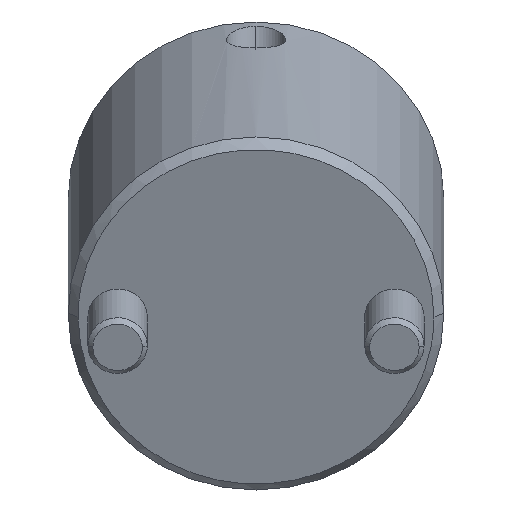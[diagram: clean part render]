
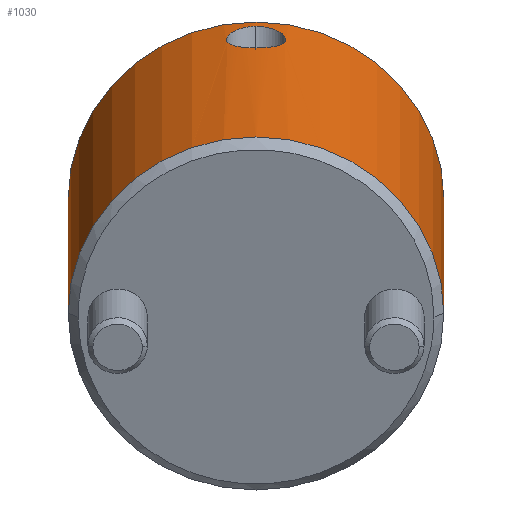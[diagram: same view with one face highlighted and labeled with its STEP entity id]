
A CAD part, front view. The second image highlights one B-rep face of the part: STEP entity #1030.
In plain terms, the highlighted cylindrical face has radius 19 mm (diameter 38 mm), a partial arc.
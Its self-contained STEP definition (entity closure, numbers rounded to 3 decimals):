
#763=CARTESIAN_POINT('Vertex',(0.,19.,1.)) ;
#766=CARTESIAN_POINT('Axis2P3D Location',(0.,0.,1.)) ;
#770=CARTESIAN_POINT('Vertex',(0.,-19.,1.)) ;
#922=CARTESIAN_POINT('Axis2P3D Location',(0.,0.,-1.8)) ;
#927=CARTESIAN_POINT('Line Origine',(0.,19.,-1.8)) ;
#931=CARTESIAN_POINT('Vertex',(0.,19.,35.)) ;
#934=CARTESIAN_POINT('Axis2P3D Location',(0.,0.,35.)) ;
#938=CARTESIAN_POINT('Vertex',(0.,-19.,35.)) ;
#941=CARTESIAN_POINT('Line Origine',(0.,-19.,-1.8)) ;
#953=CARTESIAN_POINT('Control Point',(19.,0.,33.73)) ;
#954=CARTESIAN_POINT('Control Point',(19.,0.079,33.73)) ;
#955=CARTESIAN_POINT('Control Point',(19.,0.158,33.727)) ;
#956=CARTESIAN_POINT('Control Point',(18.999,0.237,33.721)) ;
#957=CARTESIAN_POINT('Control Point',(18.995,0.474,33.695)) ;
#958=CARTESIAN_POINT('Control Point',(18.988,0.71,33.641)) ;
#959=CARTESIAN_POINT('Control Point',(18.981,0.869,33.592)) ;
#960=CARTESIAN_POINT('Control Point',(18.965,1.177,33.474)) ;
#961=CARTESIAN_POINT('Control Point',(18.944,1.464,33.312)) ;
#962=CARTESIAN_POINT('Control Point',(18.933,1.604,33.218)) ;
#963=CARTESIAN_POINT('Control Point',(18.908,1.875,33.011)) ;
#964=CARTESIAN_POINT('Control Point',(18.882,2.118,32.766)) ;
#965=CARTESIAN_POINT('Control Point',(18.869,2.233,32.633)) ;
#966=CARTESIAN_POINT('Control Point',(18.836,2.5,32.278)) ;
#967=CARTESIAN_POINT('Control Point',(18.806,2.71,31.875)) ;
#968=CARTESIAN_POINT('Control Point',(18.791,2.811,31.624)) ;
#969=CARTESIAN_POINT('Control Point',(18.771,2.939,31.185)) ;
#970=CARTESIAN_POINT('Control Point',(18.762,2.995,30.734)) ;
#971=CARTESIAN_POINT('Control Point',(18.761,3.006,30.555)) ;
#972=CARTESIAN_POINT('Control Point',(18.761,3.002,30.198)) ;
#973=CARTESIAN_POINT('Control Point',(18.769,2.952,29.847)) ;
#974=CARTESIAN_POINT('Control Point',(18.775,2.916,29.674)) ;
#975=CARTESIAN_POINT('Control Point',(18.79,2.822,29.339)) ;
#976=CARTESIAN_POINT('Control Point',(18.81,2.683,29.023)) ;
#977=CARTESIAN_POINT('Control Point',(18.821,2.603,28.87)) ;
#978=CARTESIAN_POINT('Control Point',(18.846,2.423,28.578)) ;
#979=CARTESIAN_POINT('Control Point',(18.872,2.207,28.317)) ;
#980=CARTESIAN_POINT('Control Point',(18.885,2.09,28.195)) ;
#981=CARTESIAN_POINT('Control Point',(18.912,1.841,27.969)) ;
#982=CARTESIAN_POINT('Control Point',(18.936,1.563,27.78)) ;
#983=CARTESIAN_POINT('Control Point',(18.948,1.418,27.696)) ;
#984=CARTESIAN_POINT('Control Point',(18.972,1.063,27.523)) ;
#985=CARTESIAN_POINT('Control Point',(18.99,0.68,27.41)) ;
#986=CARTESIAN_POINT('Control Point',(18.997,0.455,27.366)) ;
#987=CARTESIAN_POINT('Control Point',(19.,0.228,27.344)) ;
#988=CARTESIAN_POINT('Control Point',(19.,0.,27.344)) ;
#989=CARTESIAN_POINT('Vertex',(19.,0.,33.73)) ;
#991=CARTESIAN_POINT('Vertex',(19.,0.,27.344)) ;
#995=CARTESIAN_POINT('Control Point',(19.,0.,27.344)) ;
#996=CARTESIAN_POINT('Control Point',(19.,-0.084,27.344)) ;
#997=CARTESIAN_POINT('Control Point',(19.,-0.167,27.347)) ;
#998=CARTESIAN_POINT('Control Point',(18.999,-0.25,27.353)) ;
#999=CARTESIAN_POINT('Control Point',(18.995,-0.499,27.379)) ;
#1000=CARTESIAN_POINT('Control Point',(18.986,-0.745,27.432)) ;
#1001=CARTESIAN_POINT('Control Point',(18.979,-0.909,27.479)) ;
#1002=CARTESIAN_POINT('Control Point',(18.953,-1.384,27.653)) ;
#1003=CARTESIAN_POINT('Control Point',(18.917,-1.81,27.924)) ;
#1004=CARTESIAN_POINT('Control Point',(18.889,-2.071,28.145)) ;
#1005=CARTESIAN_POINT('Control Point',(18.841,-2.465,28.594)) ;
#1006=CARTESIAN_POINT('Control Point',(18.801,-2.743,29.131)) ;
#1007=CARTESIAN_POINT('Control Point',(18.787,-2.837,29.372)) ;
#1008=CARTESIAN_POINT('Control Point',(18.769,-2.954,29.795)) ;
#1009=CARTESIAN_POINT('Control Point',(18.762,-3.,30.236)) ;
#1010=CARTESIAN_POINT('Control Point',(18.761,-3.007,30.413)) ;
#1011=CARTESIAN_POINT('Control Point',(18.762,-2.997,30.773)) ;
#1012=CARTESIAN_POINT('Control Point',(18.771,-2.939,31.131)) ;
#1013=CARTESIAN_POINT('Control Point',(18.778,-2.898,31.31)) ;
#1014=CARTESIAN_POINT('Control Point',(18.802,-2.743,31.832)) ;
#1015=CARTESIAN_POINT('Control Point',(18.838,-2.488,32.314)) ;
#1016=CARTESIAN_POINT('Control Point',(18.865,-2.279,32.609)) ;
#1017=CARTESIAN_POINT('Control Point',(18.906,-1.921,32.992)) ;
#1018=CARTESIAN_POINT('Control Point',(18.941,-1.503,33.286)) ;
#1019=CARTESIAN_POINT('Control Point',(18.952,-1.362,33.372)) ;
#1020=CARTESIAN_POINT('Control Point',(18.975,-1.019,33.548)) ;
#1021=CARTESIAN_POINT('Control Point',(18.991,-0.648,33.663)) ;
#1022=CARTESIAN_POINT('Control Point',(18.997,-0.432,33.708)) ;
#1023=CARTESIAN_POINT('Control Point',(19.,-0.217,33.73)) ;
#1024=CARTESIAN_POINT('Control Point',(19.,0.,33.73)) ;
#767=DIRECTION('Axis2P3D Direction',(0.,0.,1.)) ;
#923=DIRECTION('Axis2P3D Direction',(0.,-0.,1.)) ;
#924=DIRECTION('Axis2P3D XDirection',(0.,-1.,0.)) ;
#928=DIRECTION('Vector Direction',(0.,0.,1.)) ;
#935=DIRECTION('Axis2P3D Direction',(0.,-0.,1.)) ;
#942=DIRECTION('Vector Direction',(0.,0.,1.)) ;
#768=AXIS2_PLACEMENT_3D('Circle Axis2P3D',#766,#767,$) ;
#925=AXIS2_PLACEMENT_3D('Cylinder Axis2P3D',#922,#923,#924) ;
#936=AXIS2_PLACEMENT_3D('Circle Axis2P3D',#934,#935,$) ;
#947=ORIENTED_EDGE('',*,*,#933,.F.) ;
#948=ORIENTED_EDGE('',*,*,#940,.T.) ;
#949=ORIENTED_EDGE('',*,*,#945,.T.) ;
#950=ORIENTED_EDGE('',*,*,#772,.F.) ;
#1027=ORIENTED_EDGE('',*,*,#993,.T.) ;
#1028=ORIENTED_EDGE('',*,*,#1025,.T.) ;
#1029=FACE_BOUND('',#1026,.T.) ;
#929=VECTOR('Line Direction',#928,1.) ;
#943=VECTOR('Line Direction',#942,1.) ;
#1030=ADVANCED_FACE('MANIFOLD_SOLID_BREP #1116',(#951,#1029),#926,.T.) ;
#952=B_SPLINE_CURVE_WITH_KNOTS('',5,(#953,#954,#955,#956,#957,#958,#959,#960,#961,#962,#963,#964,#965,#966,#967,#968,#969,#970,#971,#972,#973,#974,#975,#976,#977,#978,#979,#980,#981,#982,#983,#984,#985,#986,#987,#988),.UNSPECIFIED.,.F.,.U.,(6,3,3,3,3,3,3,3,3,3,3,6),(0.,0.58,1.759,2.973,4.216,6.084,7.319,8.543,9.755,10.958,12.159,13.791),.UNSPECIFIED.) ;
#994=B_SPLINE_CURVE_WITH_KNOTS('',5,(#995,#996,#997,#998,#999,#1000,#1001,#1002,#1003,#1004,#1005,#1006,#1007,#1008,#1009,#1010,#1011,#1012,#1013,#1014,#1015,#1016,#1017,#1018,#1019,#1020,#1021,#1022,#1023,#1024),.UNSPECIFIED.,.F.,.U.,(6,3,3,3,3,3,3,3,3,6),(0.,0.601,1.804,4.221,6.049,7.276,8.518,10.997,12.197,13.788),.UNSPECIFIED.) ;
#769=CIRCLE('generated circle',#768,19.) ;
#937=CIRCLE('generated circle',#936,19.) ;
#926=CYLINDRICAL_SURFACE('generated cylinder',#925,19.) ;
#772=EDGE_CURVE('',#764,#771,#769,.F.) ;
#933=EDGE_CURVE('',#932,#764,#930,.F.) ;
#940=EDGE_CURVE('',#932,#939,#937,.F.) ;
#945=EDGE_CURVE('',#939,#771,#944,.F.) ;
#993=EDGE_CURVE('',#990,#992,#952,.T.) ;
#1025=EDGE_CURVE('',#992,#990,#994,.T.) ;
#946=EDGE_LOOP('',(#947,#948,#949,#950)) ;
#1026=EDGE_LOOP('',(#1027,#1028)) ;
#951=FACE_OUTER_BOUND('',#946,.T.) ;
#930=LINE('Line',#927,#929) ;
#944=LINE('Line',#941,#943) ;
#764=VERTEX_POINT('',#763) ;
#771=VERTEX_POINT('',#770) ;
#932=VERTEX_POINT('',#931) ;
#939=VERTEX_POINT('',#938) ;
#990=VERTEX_POINT('',#989) ;
#992=VERTEX_POINT('',#991) ;
